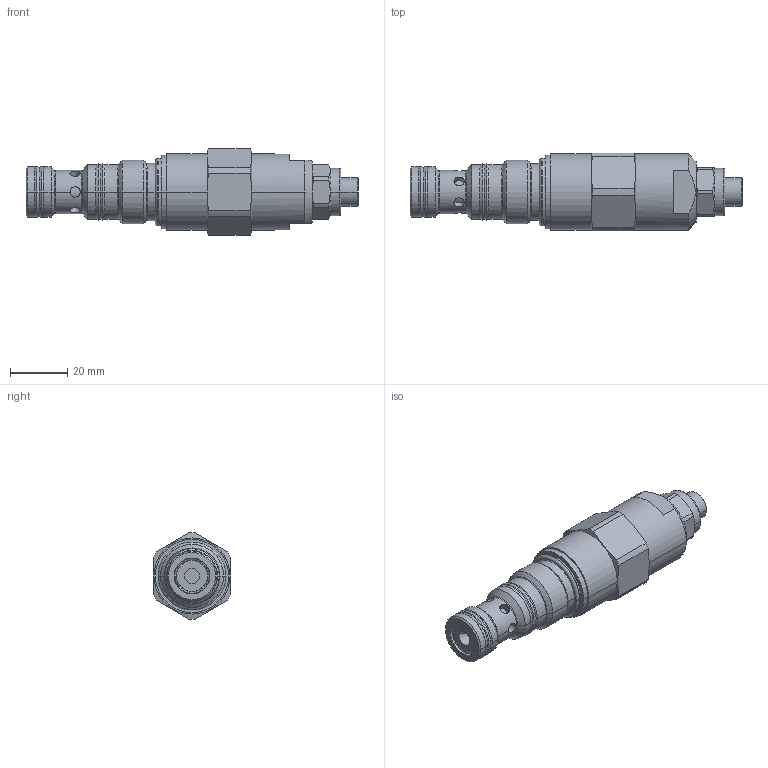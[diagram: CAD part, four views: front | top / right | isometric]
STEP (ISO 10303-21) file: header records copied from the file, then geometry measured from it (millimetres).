
FILE_DESCRIPTION((''),'2;1');
FILE_NAME('SO5A-BP3_SIMPLE','2019-02-27T',('l.soukupova'),(''),'PRO/ENGINEER BY PARAMETRIC TECHNOLOGY CORPORATION, 2015440','PRO/ENGINEER BY PARAMETRIC TECHNOLOGY CORPORATION, 2015440','');
FILE_SCHEMA(('AUTOMOTIVE_DESIGN { 1 0 10303 214 1 1 1 1 }'));
Length unit declared in the file: millimetre
Products named in the file (1): SO5A-BP3_SIMPLE
Bounding box: 115.5 x 27 x 29.99 mm (x, y, z)
Volume: 44447.4 mm3; surface area: 10042.9 mm2
Topology: 1 solids, 1 shells, 186 faces, 420 edges, 256 vertices
Faces by surface type: cylinder 74, cone 50, plane 41, torus 21
Entity records: 8180 total; most frequent: CARTESIAN_POINT 2713, DIRECTION 897, ORIENTED_EDGE 834, PRESENTATION_STYLE_ASSIGNMENT 422, STYLED_ITEM 422, CURVE_STYLE 421, EDGE_CURVE 417, AXIS2_PLACEMENT_3D 374
